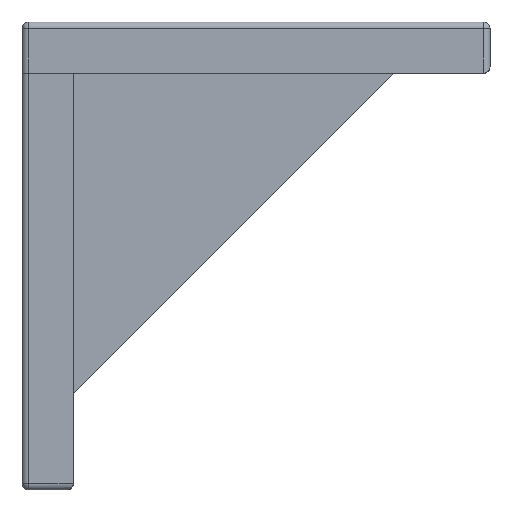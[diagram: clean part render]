
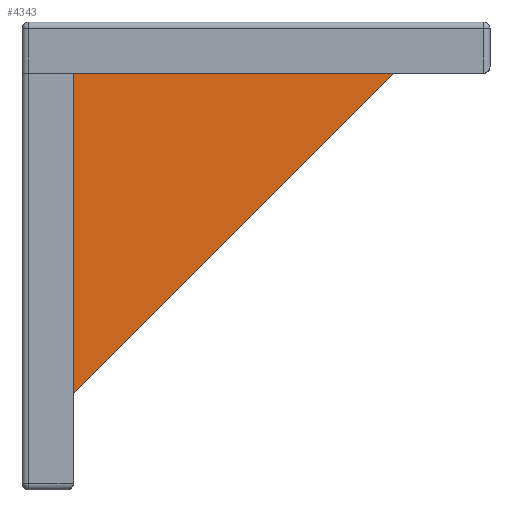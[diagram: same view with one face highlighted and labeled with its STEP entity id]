
A CAD part, left-side view. The second image highlights one B-rep face of the part: STEP entity #4343.
In plain terms, the highlighted planar face has unit normal (-1, 0, 0) as drawn and (0, 0, 1) by its records, which use the part's own axes.
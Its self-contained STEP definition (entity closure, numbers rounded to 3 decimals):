
#112 = ORIENTED_EDGE ( 'NONE', *, *, #1343, .F. ) ;
#657 = VERTEX_POINT ( 'NONE', #1742 ) ;
#1137 = EDGE_CURVE ( 'NONE', #657, #2627, #6471, .T. ) ;
#1249 = DIRECTION ( 'NONE',  ( 0.707, -0.707, 0. ) ) ;
#1343 = EDGE_CURVE ( 'NONE', #2569, #657, #5176, .T. ) ;
#1666 = FACE_OUTER_BOUND ( 'NONE', #3573, .T. ) ;
#1742 = CARTESIAN_POINT ( 'NONE',  ( -25., 25., 8. ) ) ;
#2130 = CARTESIAN_POINT ( 'NONE',  ( -25., 0., 8. ) ) ;
#2135 = EDGE_CURVE ( 'NONE', #2569, #2627, #6018, .T. ) ;
#2160 = DIRECTION ( 'NONE',  ( 0., 1., 0. ) ) ;
#2569 = VERTEX_POINT ( 'NONE', #5527 ) ;
#2627 = VERTEX_POINT ( 'NONE', #4925 ) ;
#2972 = ORIENTED_EDGE ( 'NONE', *, *, #2135, .T. ) ;
#3280 = AXIS2_PLACEMENT_3D ( 'NONE', #4782, #5352, #5902 ) ;
#3573 = EDGE_LOOP ( 'NONE', ( #112, #2972, #6643 ) ) ;
#3991 = VECTOR ( 'NONE', #4485, 1000. ) ;
#4343 = ADVANCED_FACE ( 'NONE', ( #1666 ), #4853, .T. ) ;
#4485 = DIRECTION ( 'NONE',  ( 1., 0., 0. ) ) ;
#4712 = VECTOR ( 'NONE', #2160, 1000. ) ;
#4782 = CARTESIAN_POINT ( 'NONE',  ( 0., 0., 8. ) ) ;
#4853 = PLANE ( 'NONE',  #3280 ) ;
#4925 = CARTESIAN_POINT ( 'NONE',  ( 25., -25., 8. ) ) ;
#5176 = LINE ( 'NONE', #2130, #4712 ) ;
#5352 = DIRECTION ( 'NONE',  ( 0., 0., 1. ) ) ;
#5527 = CARTESIAN_POINT ( 'NONE',  ( -25., -25., 8. ) ) ;
#5623 = VECTOR ( 'NONE', #1249, 1000. ) ;
#5902 = DIRECTION ( 'NONE',  ( 1., 0., 0. ) ) ;
#5998 = CARTESIAN_POINT ( 'NONE',  ( 0., 0., 8. ) ) ;
#6018 = LINE ( 'NONE', #6533, #3991 ) ;
#6471 = LINE ( 'NONE', #5998, #5623 ) ;
#6533 = CARTESIAN_POINT ( 'NONE',  ( 0., -25., 8. ) ) ;
#6643 = ORIENTED_EDGE ( 'NONE', *, *, #1137, .F. ) ;
